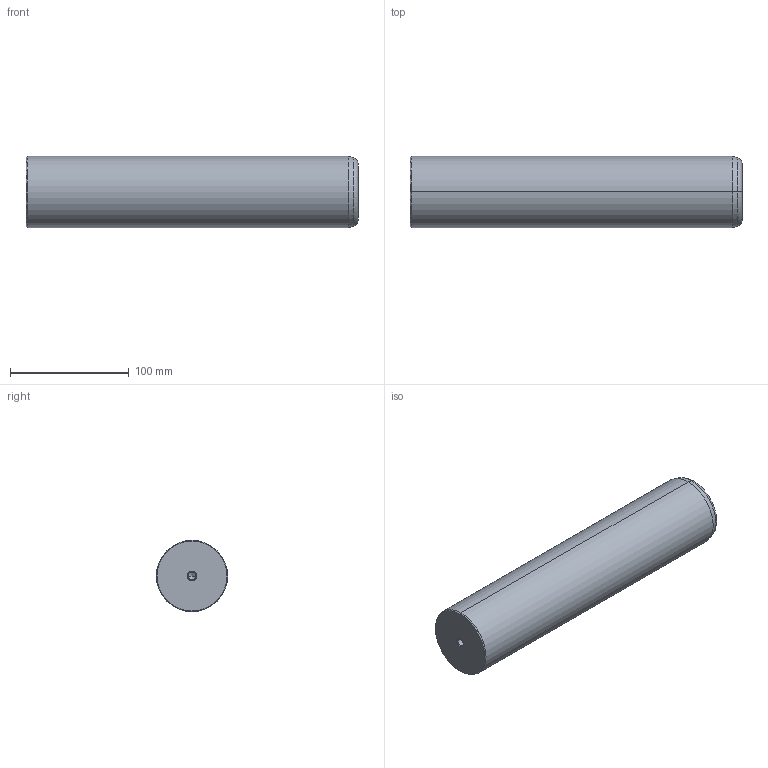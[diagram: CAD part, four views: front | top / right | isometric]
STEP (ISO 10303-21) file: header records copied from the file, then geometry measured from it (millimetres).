
FILE_DESCRIPTION(('CATIA V5 STEP Exchange'),'2;1');
FILE_NAME('C:\Users\Utente\Desktop\IO LAVORO\3D X SITO CF\X SITO\720\720-60x280.stp','2020-12-30T21:34:56+00:00',('none'),('none'),'CATIA Version 5 Release 20 GA (IN-10)','CATIA V5 STEP AP203','none');
FILE_SCHEMA(('CONFIG_CONTROL_DESIGN'));
Length unit declared in the file: millimetre
Products named in the file (1): 720-60x280
Bounding box: 280 x 60 x 60 mm (x, y, z)
Volume: 787846.4 mm3; surface area: 58753.9 mm2
Topology: 1 solids, 1 shells, 22 faces, 56 edges, 34 vertices
Faces by surface type: cone 12, cylinder 6, plane 2, torus 2
Entity records: 755 total; most frequent: CARTESIAN_POINT 216, ORIENTED_EDGE 104, DIRECTION 89, EDGE_CURVE 52, AXIS2_PLACEMENT_3D 50, VERTEX_POINT 34, CIRCLE 27, EDGE_LOOP 24
